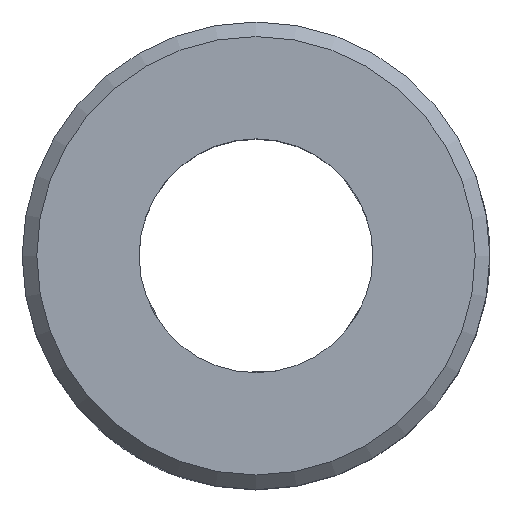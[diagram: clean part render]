
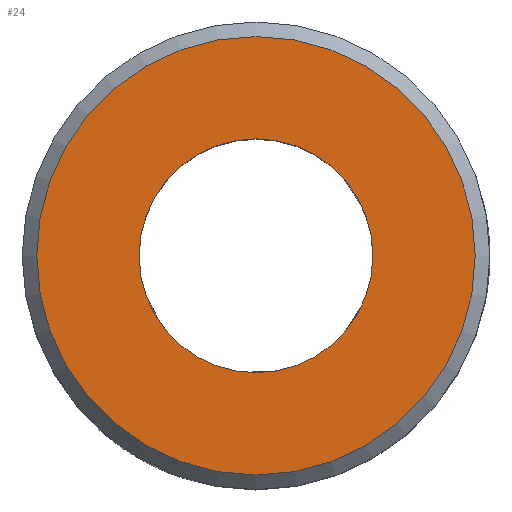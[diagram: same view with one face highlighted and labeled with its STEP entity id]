
A CAD part, top view. The second image highlights one B-rep face of the part: STEP entity #24.
In plain terms, the highlighted planar face has unit normal (0, 0, 1).
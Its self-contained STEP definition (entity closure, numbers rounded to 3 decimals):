
#9 = CIRCLE ( 'NONE', #371, 4. ) ;
#24 = ADVANCED_FACE ( 'NONE', ( #102, #393 ), #62, .T. ) ;
#37 = DIRECTION ( 'NONE',  ( 1., 0., 0. ) ) ;
#51 = ORIENTED_EDGE ( 'NONE', *, *, #96, .F. ) ;
#56 = DIRECTION ( 'NONE',  ( 1., 0., 0. ) ) ;
#62 = PLANE ( 'NONE',  #389 ) ;
#68 = DIRECTION ( 'NONE',  ( 0., 0., 1. ) ) ;
#85 = EDGE_LOOP ( 'NONE', ( #51 ) ) ;
#89 = CARTESIAN_POINT ( 'NONE',  ( 7.5, 0., 4. ) ) ;
#96 = EDGE_CURVE ( 'NONE', #235, #235, #9, .T. ) ;
#100 = CARTESIAN_POINT ( 'NONE',  ( 0., 0., 4. ) ) ;
#102 = FACE_OUTER_BOUND ( 'NONE', #246, .T. ) ;
#116 = ORIENTED_EDGE ( 'NONE', *, *, #173, .T. ) ;
#125 = DIRECTION ( 'NONE',  ( 0., 0., 1. ) ) ;
#130 = CARTESIAN_POINT ( 'NONE',  ( 0., 0., 4. ) ) ;
#173 = EDGE_CURVE ( 'NONE', #175, #175, #201, .T. ) ;
#175 = VERTEX_POINT ( 'NONE', #89 ) ;
#201 = CIRCLE ( 'NONE', #325, 7.5 ) ;
#235 = VERTEX_POINT ( 'NONE', #310 ) ;
#246 = EDGE_LOOP ( 'NONE', ( #116 ) ) ;
#288 = DIRECTION ( 'NONE',  ( 1., 0., 0. ) ) ;
#310 = CARTESIAN_POINT ( 'NONE',  ( 4., 0., 4. ) ) ;
#325 = AXIS2_PLACEMENT_3D ( 'NONE', #100, #68, #56 ) ;
#329 = DIRECTION ( 'NONE',  ( 0., 0., 1. ) ) ;
#371 = AXIS2_PLACEMENT_3D ( 'NONE', #397, #329, #37 ) ;
#389 = AXIS2_PLACEMENT_3D ( 'NONE', #130, #125, #288 ) ;
#393 = FACE_BOUND ( 'NONE', #85, .T. ) ;
#397 = CARTESIAN_POINT ( 'NONE',  ( 0., 0., 4. ) ) ;
